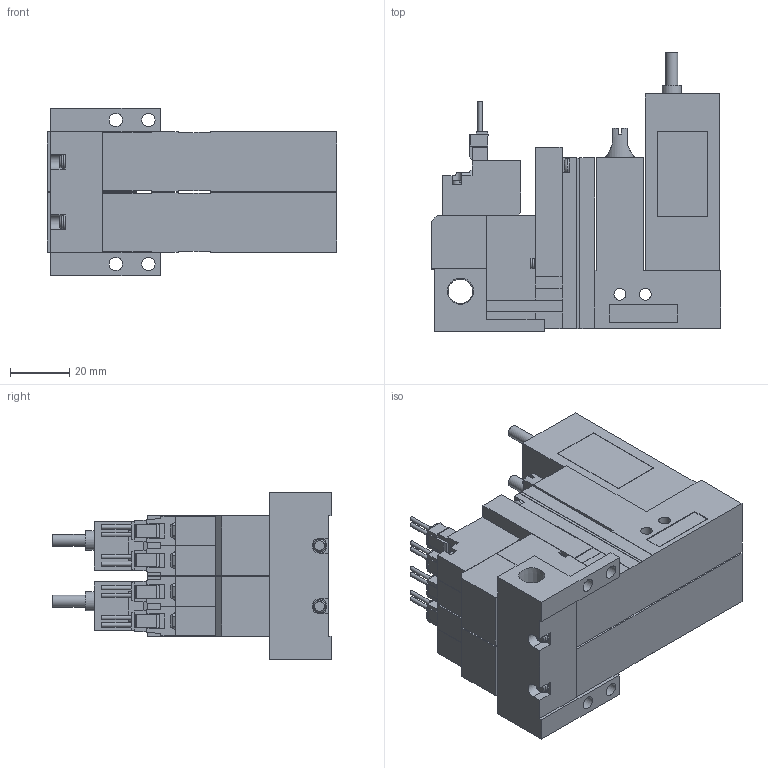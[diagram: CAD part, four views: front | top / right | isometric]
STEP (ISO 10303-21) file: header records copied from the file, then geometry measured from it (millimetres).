
FILE_DESCRIPTION(('STEP AP203'),'1');
FILE_NAME('VG_VGPLC5BLR202.stp','2025-02-18T07:05:39',(' '),(' '),'Spatial InterOp 3D',' ',' ');
FILE_SCHEMA(('CONFIG_CONTROL_DESIGN'));
Length unit declared in the file: millimetre
Products named in the file (5): BMC22M※※※※VG_VGPLC5BLR202; Solenoid valve B; Pressure sensor VGLC; Unit LC; Base MR20R
Assembly tree (7 placements, depth 2):
  BMC22M※※※※VG_VGPLC5BLR202
    Solenoid valve B  x2
    Pressure sensor VGLC  x2
    Unit LC  x2
    Base MR20R
Bounding box: 97.6 x 94 x 56.5 mm (x, y, z)
Volume: 227295.5 mm3; surface area: 59337.6 mm2
Topology: 7 solids, 7 shells, 803 faces, 2153 edges, 1420 vertices
Faces by surface type: plane 678, cylinder 99, cone 16, torus 10
Full cylindrical faces by diameter (mm): 1.4 x8, 2.5 x6, 3 x8, 3.5 x8, 3.6 x2, 4 x12, 4.134 x2, 4.5 x4, 5.2 x2, 6 x2, 6.5 x2, 6.6 x2, 8.279 x1
Entity records: 13240 total; most frequent: CARTESIAN_POINT 2472, ORIENTED_EDGE 2128, DIRECTION 2092, EDGE_CURVE 1064, LINE 894, VECTOR 894, VERTEX_POINT 733, AXIS2_PLACEMENT_3D 599
